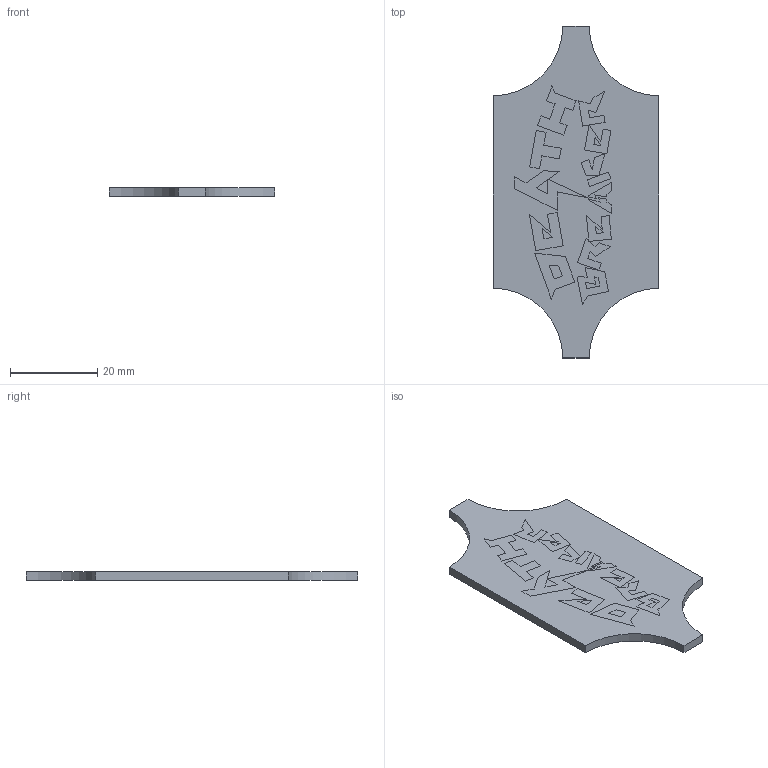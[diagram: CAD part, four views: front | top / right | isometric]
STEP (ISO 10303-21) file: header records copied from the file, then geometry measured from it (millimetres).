
FILE_DESCRIPTION(('HOOPS Exchange Step'),'2;1');
FILE_NAME('C:\Users\graig\Desktop\Death Breaker 3D Files\STP\Widget.stp','2026-09-15T14:24:19+01:00',('graig'),('Unknown organisation'),'HOOPS Exchange 2025.8','HOOPS Exchange','Unknown authorisation');
FILE_SCHEMA( ('AP203_CONFIGURATION_CONTROLLED_3D_DESIGN_OF_MECHANICAL_PARTS_AND_ASSEMBLIES_MIM_LF') );
Length unit declared in the file: millimetre
Products named in the file (1): root
Bounding box: 38.1 x 76.2 x 2 mm (x, y, z)
Volume: 4198 mm3; surface area: 4600.3 mm2
Topology: 1 solids, 1 shells, 54 faces, 300 edges, 284 vertices
Faces by surface type: plane 50, cylinder 4
Entity records: 3205 total; most frequent: CARTESIAN_POINT 639, ORIENTED_EDGE 600, DIRECTION 418, EDGE_CURVE 300, VECTOR 292, LINE 292, VERTEX_POINT 284, EDGE_LOOP 90
